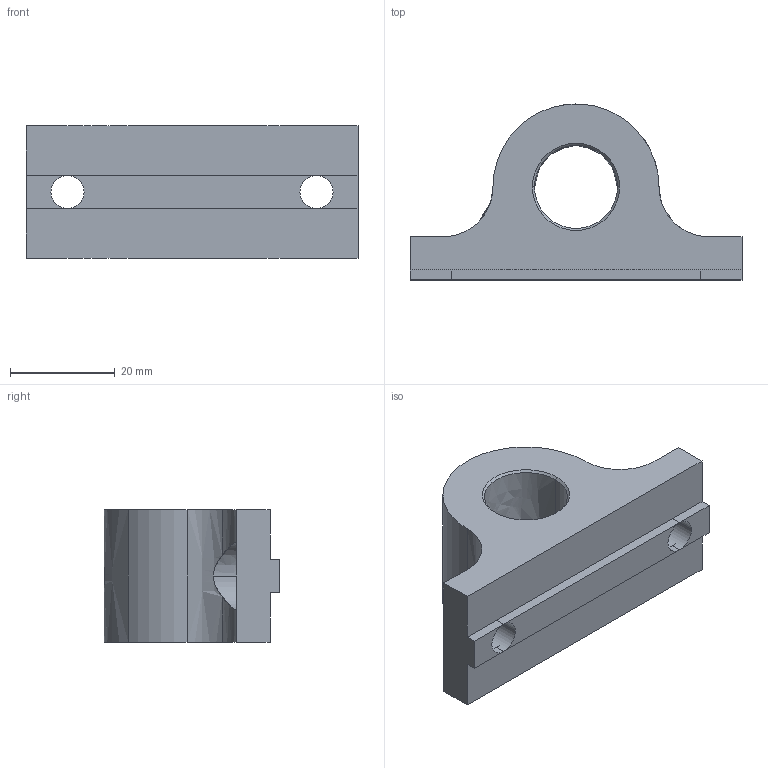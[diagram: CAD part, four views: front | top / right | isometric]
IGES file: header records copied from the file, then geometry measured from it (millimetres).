
Global section: file name: C:\Documents and Settings\Administrator\Desktop\Transfer Temp\pillowblock-H.igs; native system: AutoDesk Inventor R2.0 ; preprocessor: AutoDesk Inventor Iges Exporter R2.0; author: No Author specified; organization: No Organization specified; date: 20020111.214534; units: inch
Bounding box: 63.5 x 33.66 x 25.4 mm (x, y, z)
Surface area: 8008.1 mm2 (no closed solid volume)
Topology: 0 solids, 0 shells, 46 faces, 244 edges, 243 vertices
Faces by surface type: bspline 26, revolution 20
